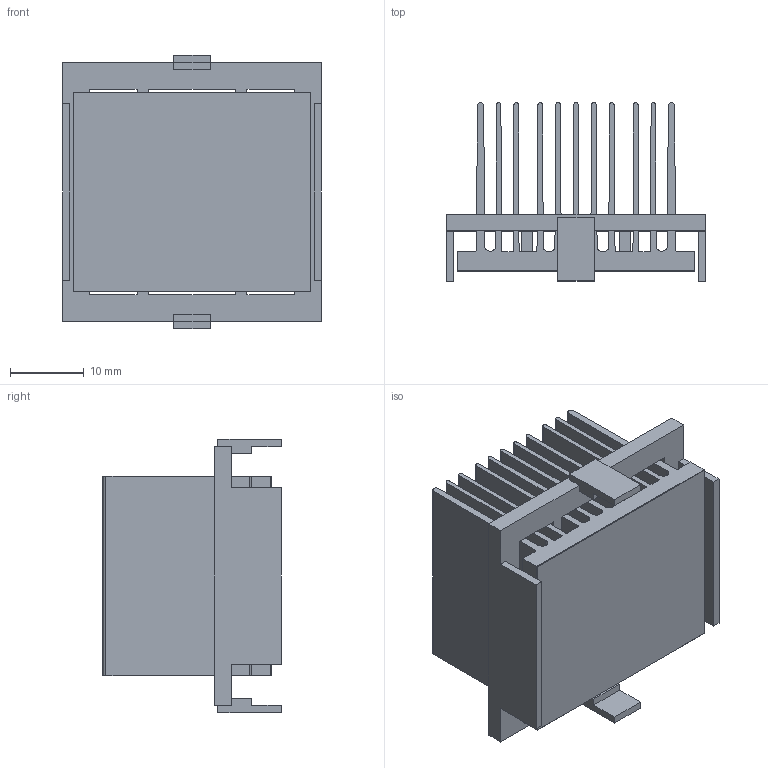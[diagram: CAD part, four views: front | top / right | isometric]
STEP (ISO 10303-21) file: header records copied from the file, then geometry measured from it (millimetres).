
FILE_DESCRIPTION (( 'STEP AP214' ), '1' );
FILE_NAME ('INH33001-23-2.6O.STEP', '2023-02-17T18:16:28', ( '' ), ( '' ), 'SwSTEP 2.0', 'SolidWorks 2020', '' );
FILE_SCHEMA (( 'AUTOMOTIVE_DESIGN' ));
Length unit declared in the file: millimetre
Products named in the file (1): INH33001-23-2.6O
Bounding box: 35.2 x 24.26 x 37.2 mm (x, y, z)
Volume: 8639.5 mm3; surface area: 18650.5 mm2
Topology: 3 solids, 3 shells, 130 faces, 372 edges, 248 vertices
Faces by surface type: plane 101, cylinder 29
Entity records: 5700 total; most frequent: CARTESIAN_POINT 751, ORIENTED_EDGE 744, DIRECTION 692, EDGE_CURVE 372, LINE 314, VECTOR 314, VERTEX_POINT 248, AXIS2_PLACEMENT_3D 189
